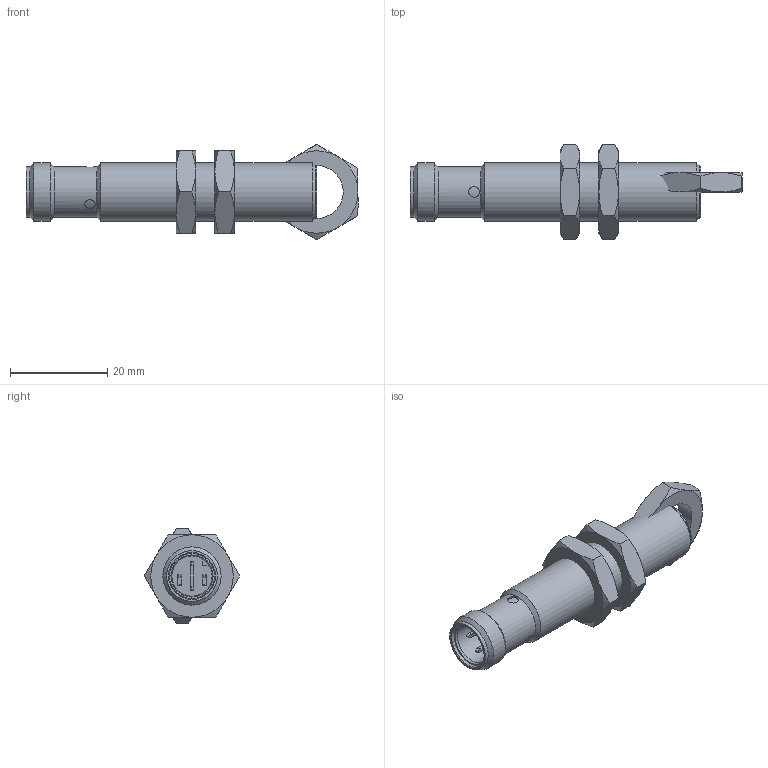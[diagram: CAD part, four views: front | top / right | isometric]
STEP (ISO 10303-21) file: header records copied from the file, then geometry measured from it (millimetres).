
FILE_DESCRIPTION( ( 'Unknown' ), '1' );
FILE_NAME( '//baumerholding.org/frauenfeld/bereich/BECH/Services/me_CAD/Solid Edge/Models/Dokumentationen/Induktiv/IxRx 12/Vereinfachte Modelle/Neutralformate/IFRM 12xx7G1_S14L.stp', 'Unknown', ( 'Unknown' ), ( 'Unknown' ), 'XStep 1.0', 'Unknown', ' ' );
FILE_SCHEMA( ( 'CONFIG_CONTROL_DESIGN' ) );
Length unit declared in the file: millimetre
Products named in the file (3): Assem1; 101470; IFRM 12xx7G1_S14L_oA
Bounding box: 68.45 x 19.63 x 19.63 mm (x, y, z)
Volume: 13687.5 mm3; surface area: 7652.9 mm2
Topology: 5 solids, 7 shells, 275 faces, 680 edges, 435 vertices
Faces by surface type: plane 152, cylinder 69, cone 54
Full cylindrical faces by diameter (mm): 2.2 x6, 9.45 x2, 10 x2, 10.45 x4, 10.7 x2, 10.917 x3, 12 x4
Entity records: 4046 total; most frequent: CARTESIAN_POINT 958, DIRECTION 608, ORIENTED_EDGE 586, EDGE_CURVE 293, AXIS2_PLACEMENT_3D 214, VERTEX_POINT 200, LINE 180, VECTOR 180
